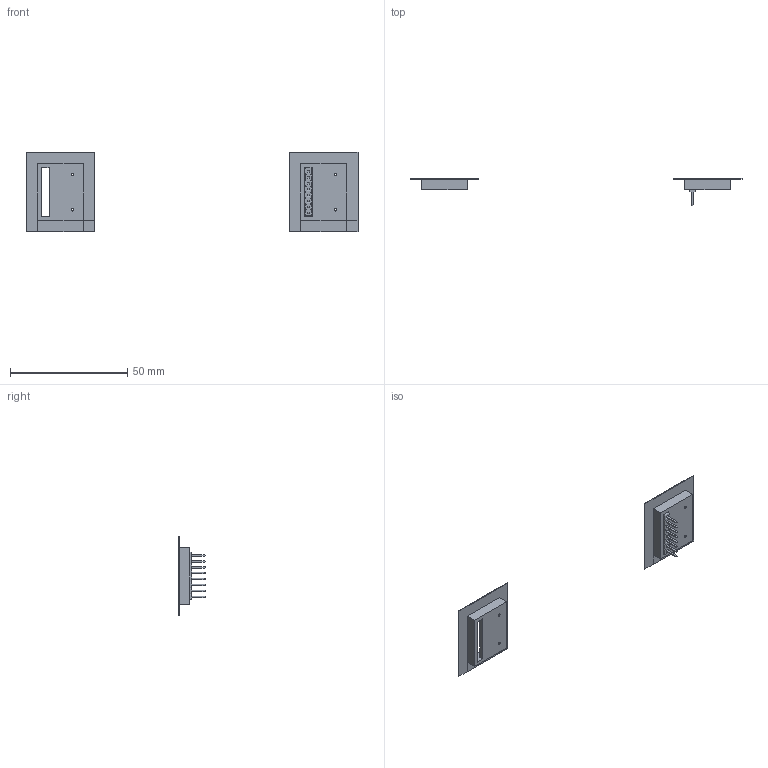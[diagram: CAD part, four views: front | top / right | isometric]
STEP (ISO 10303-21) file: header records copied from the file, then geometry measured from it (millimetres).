
FILE_DESCRIPTION(/* description */ ('STEP AP242 Edition 2','CAx-IF Rec.Pracs.---Representation and Presentation of Product Manufacturing Information (PMI)---4.0---2014-10-13','CAx-IF Rec.Pracs.---3D Tessellated Geometry---0.4---2014-09-14','2;1','CAx-IF Rec.Pracs.---User Defined Attributes---1.5---2016-08-15'),/* implementation_level */ '2;1');
FILE_NAME(/* name */ 'MPU6050 + mount',/* time_stamp */ '2026-02-01T16:55:54Z',/* author */ (''),/* organization */ (''),/* preprocessor_version */ 'ST-DEVELOPER v20',/* originating_system */ 'ONSHAPE BY PTC INC, 1.210',/* authorisation */ ' ');
FILE_SCHEMA (('AP242_MANAGED_MODEL_BASED_3D_ENGINEERING_MIM_LF { 1 0 10303 442 3 1 4 }'));
Length unit declared in the file: centimetre
Products named in the file (58): id2; id5; id8; Part 3; Part 2; id17; id20; id23; id26; id29; id32; id35; id38; id41; id44; id47; id50; id53; id56; id59; id62; id65; id68; id71; id74; id77; id80; id83; id86; id89; id92; id95; id98; id101; id104; id107; id110; id113; id116; id119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
Bounding box: 141.37 x 11.54 x 34.05 mm (x, y, z)
Volume: 2626.5 mm3; surface area: 6874.4 mm2
Topology: 4 solids, 58 shells, 125 faces, 150 edges, 98 vertices
Faces by surface type: other 63, plane 54, cylinder 8
Full cylindrical faces by diameter (mm): 1.108 x2, 1.117 x2, 2.572 x2, 2.584 x2
Entity records: 3135 total; most frequent: DIRECTION 398, CARTESIAN_POINT 360, ORIENTED_EDGE 284, EDGE_CURVE 142, AXIS2_PLACEMENT_3D 136, LINE 126, VECTOR 126, VERTEX_POINT 98
